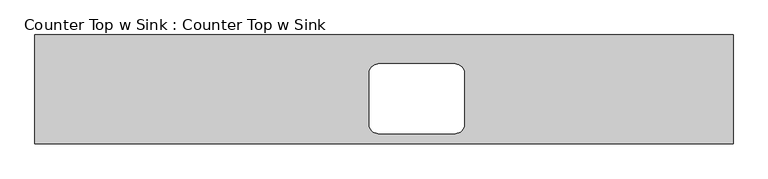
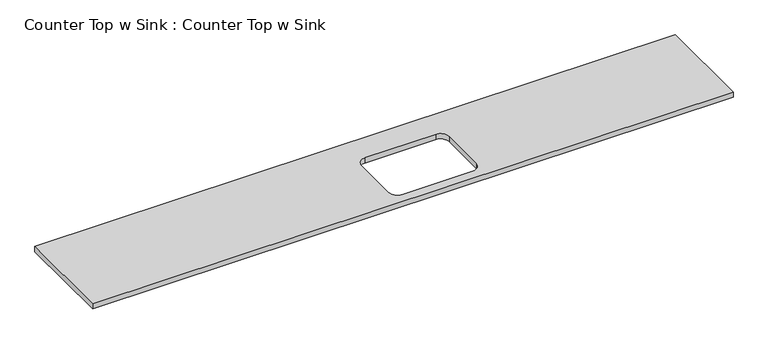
"""IFC4 building model written with IfcOpenShell, lengths in millimetres: furniture geometry, Counter Top w Sink : Counter Top w Sink."""

from ifc_helpers import new_model, si_unit, point, frame, frame_2d, origin, place, context, project, spatial, polyline, circle_curve, trimmed, segment, composite_curve, outline, extrude, source, transform, mapped, element, save


def counter_top_w_sink_counter_top_w_sink_5c8073ae(model_context):
    return source(origin(), model_context, "Body", "SweptSolid", [
        extrude(outline(polyline([(3284.7003264, 0.0), (3284.7003264, -600.0), (-555.2996736, -600.0), (-555.2996736, 0.0), (3284.7003264, 0.0)]), holes=[composite_curve([segment(trimmed(circle_curve(frame_2d((1333.6003264, -210.8)), 50.8), [point((1333.6003264, -160.0))], [point((1282.8003264, -210.8))], True, "CARTESIAN"), True, "CONTINUOUS"), segment(polyline([(1282.8003264, -210.8), (1282.8003264, -491.8)]), True, "CONTINUOUS"), segment(trimmed(circle_curve(frame_2d((1333.6003264, -491.8)), 50.8), [point((1282.8003264, -491.8))], [point((1333.6003264, -542.6))], True, "CARTESIAN"), True, "CONTINUOUS"), segment(polyline([(1333.6003264, -542.6), (1755.8003264, -542.6)]), True, "CONTINUOUS"), segment(trimmed(circle_curve(frame_2d((1755.8003264, -491.8)), 50.8), [point((1755.8003264, -542.6))], [point((1806.6003264, -491.8))], True, "CARTESIAN"), True, "CONTINUOUS"), segment(polyline([(1806.6003264, -491.8), (1806.6003264, -210.8)]), True, "CONTINUOUS"), segment(trimmed(circle_curve(frame_2d((1755.8003264, -210.8)), 50.8), [point((1806.6003264, -210.8))], [point((1755.8003264, -160.0))], True, "CARTESIAN"), True, "CONTINUOUS"), segment(polyline([(1755.8003264, -160.0), (1333.6003264, -160.0)]), True, "CONTINUOUS")], self_intersect=False)]), frame((0.0, 0.0, 868.0), z_axis=(0.0, 0.0, 1.0), x_axis=(1.0, 0.0, 0.0)), (0.0, 0.0, 1.0), 32.0),
    ])


if __name__ == "__main__":
    model = new_model("IFC4")
    model_context = context("Model", 3, world=origin())
    ifc_project = project(units=[si_unit("LENGTHUNIT", "METRE", prefix="MILLI")], contexts=[model_context])
    site = spatial("IfcSite", under=ifc_project)
    building = spatial("IfcBuilding", under=site)
    placement = place(None, origin())
    counter_top_w_sink_counter_top_w_sink_shape = counter_top_w_sink_counter_top_w_sink_5c8073ae(model_context)
    element("IfcFurniture", 1, ObjectType="Counter Top w Sink : Counter Top w Sink", at=placement, inside=building, context=model_context, shape_type="MappedRepresentation", body=[
        mapped(counter_top_w_sink_counter_top_w_sink_shape, transform((0.0, 0.0, 0.0), x_axis=(1.0, 0.0, 0.0), y_axis=(0.0, 1.0, 0.0), z_axis=(0.0, 0.0, 1.0))),
    ])
    save(model, "model.ifc")
